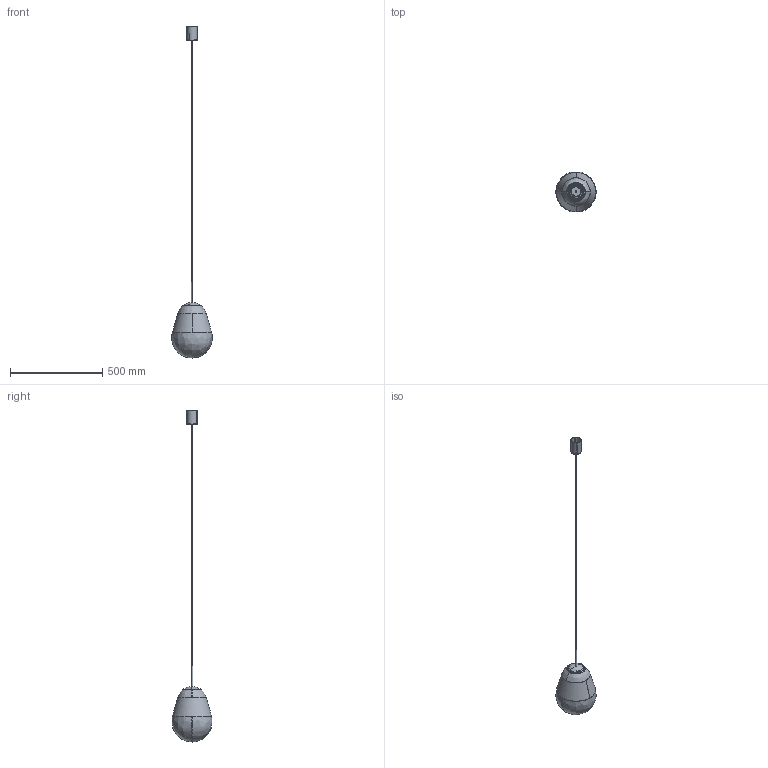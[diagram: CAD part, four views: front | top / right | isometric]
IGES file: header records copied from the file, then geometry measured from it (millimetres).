
Start section: SolidWorks IGES file using NURBS representation for surfaces
Global section: file name: Z:\Modele 3D_WWW\_KOLEKCJE_WWW\PEAR\PEAR-S-8673\PEAR-S-8673.IGS; native system: SolidWorks 2021; preprocessor: SolidWorks 2021; author: gabriela.tworek; date: 211019.145555; units: millimetre
Bounding box: 220 x 213.77 x 1800.1 mm (x, y, z)
Surface area: 508708.6 mm2 (no closed solid volume)
Topology: 0 solids, 0 shells, 352 faces, 5043 edges, 5030 vertices
Faces by surface type: bspline 352
